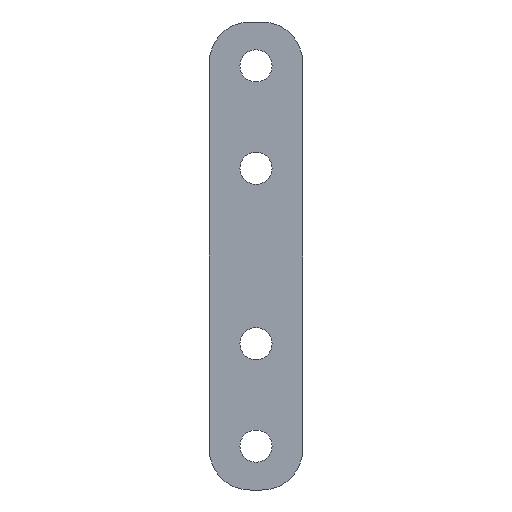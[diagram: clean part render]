
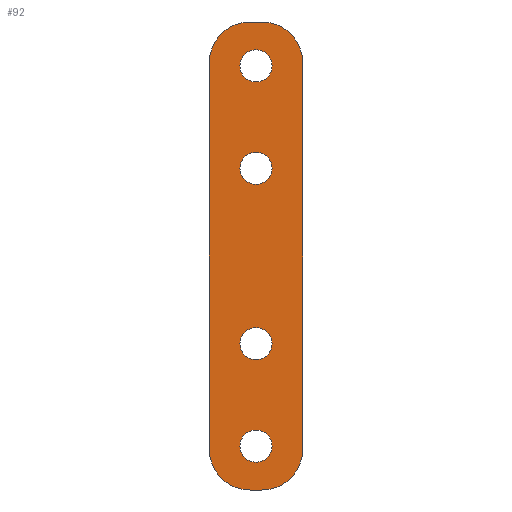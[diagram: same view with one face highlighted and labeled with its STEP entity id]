
A CAD part, front view. The second image highlights one B-rep face of the part: STEP entity #92.
In plain terms, the highlighted planar face has unit normal (0, -1, 0).
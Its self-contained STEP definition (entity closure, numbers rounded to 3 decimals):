
#92 = ADVANCED_FACE( '', ( #132, #133, #134, #135, #136 ), #137, .F. );
#132 = FACE_BOUND( '', #176, .T. );
#133 = FACE_BOUND( '', #177, .T. );
#134 = FACE_BOUND( '', #178, .T. );
#135 = FACE_BOUND( '', #179, .T. );
#136 = FACE_OUTER_BOUND( '', #180, .T. );
#137 = PLANE( '', #181 );
#176 = EDGE_LOOP( '', ( #313, #314 ) );
#177 = EDGE_LOOP( '', ( #315, #316 ) );
#178 = EDGE_LOOP( '', ( #317, #318 ) );
#179 = EDGE_LOOP( '', ( #319, #320 ) );
#180 = EDGE_LOOP( '', ( #321, #322, #323, #324, #325, #326, #327, #328 ) );
#181 = AXIS2_PLACEMENT_3D( '', #329, #330, #331 );
#313 = ORIENTED_EDGE( '', *, *, #347, .T. );
#314 = ORIENTED_EDGE( '', *, *, #348, .T. );
#315 = ORIENTED_EDGE( '', *, *, #343, .T. );
#316 = ORIENTED_EDGE( '', *, *, #350, .T. );
#317 = ORIENTED_EDGE( '', *, *, #339, .T. );
#318 = ORIENTED_EDGE( '', *, *, #352, .T. );
#319 = ORIENTED_EDGE( '', *, *, #335, .T. );
#320 = ORIENTED_EDGE( '', *, *, #354, .T. );
#321 = ORIENTED_EDGE( '', *, *, #379, .F. );
#322 = ORIENTED_EDGE( '', *, *, #358, .F. );
#323 = ORIENTED_EDGE( '', *, *, #362, .F. );
#324 = ORIENTED_EDGE( '', *, *, #365, .F. );
#325 = ORIENTED_EDGE( '', *, *, #368, .F. );
#326 = ORIENTED_EDGE( '', *, *, #371, .F. );
#327 = ORIENTED_EDGE( '', *, *, #374, .F. );
#328 = ORIENTED_EDGE( '', *, *, #377, .F. );
#329 = CARTESIAN_POINT( '', ( 0., 0., 0. ) );
#330 = DIRECTION( '', ( 0., 1., 0. ) );
#331 = DIRECTION( '', ( 0., 0., 1. ) );
#335 = EDGE_CURVE( '', #381, #385, #387, .T. );
#339 = EDGE_CURVE( '', #389, #393, #395, .T. );
#343 = EDGE_CURVE( '', #397, #401, #403, .T. );
#347 = EDGE_CURVE( '', #405, #409, #411, .T. );
#348 = EDGE_CURVE( '', #409, #405, #412, .T. );
#350 = EDGE_CURVE( '', #401, #397, #414, .T. );
#352 = EDGE_CURVE( '', #393, #389, #416, .T. );
#354 = EDGE_CURVE( '', #385, #381, #418, .T. );
#358 = EDGE_CURVE( '', #423, #425, #426, .T. );
#362 = EDGE_CURVE( '', #430, #423, #432, .T. );
#365 = EDGE_CURVE( '', #435, #430, #437, .T. );
#368 = EDGE_CURVE( '', #440, #435, #442, .T. );
#371 = EDGE_CURVE( '', #445, #440, #447, .T. );
#374 = EDGE_CURVE( '', #450, #445, #452, .T. );
#377 = EDGE_CURVE( '', #455, #450, #457, .T. );
#379 = EDGE_CURVE( '', #425, #455, #459, .T. );
#381 = VERTEX_POINT( '', #461 );
#385 = VERTEX_POINT( '', #466 );
#387 = CIRCLE( '', #469, 2.75 );
#389 = VERTEX_POINT( '', #471 );
#393 = VERTEX_POINT( '', #476 );
#395 = CIRCLE( '', #479, 2.75 );
#397 = VERTEX_POINT( '', #481 );
#401 = VERTEX_POINT( '', #486 );
#403 = CIRCLE( '', #489, 2.75 );
#405 = VERTEX_POINT( '', #491 );
#409 = VERTEX_POINT( '', #496 );
#411 = CIRCLE( '', #499, 2.75 );
#412 = CIRCLE( '', #500, 2.75 );
#414 = CIRCLE( '', #502, 2.75 );
#416 = CIRCLE( '', #504, 2.75 );
#418 = CIRCLE( '', #506, 2.75 );
#423 = VERTEX_POINT( '', #512 );
#425 = VERTEX_POINT( '', #515 );
#426 = LINE( '', #516, #517 );
#430 = VERTEX_POINT( '', #522 );
#432 = CIRCLE( '', #525, 7. );
#435 = VERTEX_POINT( '', #529 );
#437 = LINE( '', #532, #533 );
#440 = VERTEX_POINT( '', #536 );
#442 = CIRCLE( '', #539, 7. );
#445 = VERTEX_POINT( '', #543 );
#447 = LINE( '', #546, #547 );
#450 = VERTEX_POINT( '', #550 );
#452 = CIRCLE( '', #553, 7. );
#455 = VERTEX_POINT( '', #557 );
#457 = LINE( '', #560, #561 );
#459 = CIRCLE( '', #563, 7. );
#461 = CARTESIAN_POINT( '', ( 2.75, 0., 0. ) );
#466 = CARTESIAN_POINT( '', ( -2.75, 0., 0. ) );
#469 = AXIS2_PLACEMENT_3D( '', #569, #570, #571 );
#471 = CARTESIAN_POINT( '', ( 2.75, 0., 65. ) );
#476 = CARTESIAN_POINT( '', ( -2.75, 0., 65. ) );
#479 = AXIS2_PLACEMENT_3D( '', #577, #578, #579 );
#481 = CARTESIAN_POINT( '', ( 2.75, 0., 47.5 ) );
#486 = CARTESIAN_POINT( '', ( -2.75, 0., 47.5 ) );
#489 = AXIS2_PLACEMENT_3D( '', #585, #586, #587 );
#491 = CARTESIAN_POINT( '', ( 2.75, 0., 17.5 ) );
#496 = CARTESIAN_POINT( '', ( -2.75, 0., 17.5 ) );
#499 = AXIS2_PLACEMENT_3D( '', #593, #594, #595 );
#500 = AXIS2_PLACEMENT_3D( '', #596, #597, #598 );
#502 = AXIS2_PLACEMENT_3D( '', #602, #603, #604 );
#504 = AXIS2_PLACEMENT_3D( '', #608, #609, #610 );
#506 = AXIS2_PLACEMENT_3D( '', #614, #615, #616 );
#512 = CARTESIAN_POINT( '', ( -8., 0., -0.5 ) );
#515 = CARTESIAN_POINT( '', ( -8., 0., 65.5 ) );
#516 = CARTESIAN_POINT( '', ( -8., 0., -0.5 ) );
#517 = VECTOR( '', #622, 1. );
#522 = CARTESIAN_POINT( '', ( -1., 0., -7.5 ) );
#525 = AXIS2_PLACEMENT_3D( '', #628, #629, #630 );
#529 = CARTESIAN_POINT( '', ( 1., 0., -7.5 ) );
#532 = CARTESIAN_POINT( '', ( 1., 0., -7.5 ) );
#533 = VECTOR( '', #633, 1. );
#536 = CARTESIAN_POINT( '', ( 8., 0., -0.5 ) );
#539 = AXIS2_PLACEMENT_3D( '', #638, #639, #640 );
#543 = CARTESIAN_POINT( '', ( 8., 0., 65.5 ) );
#546 = CARTESIAN_POINT( '', ( 8., 0., 65.5 ) );
#547 = VECTOR( '', #643, 1. );
#550 = CARTESIAN_POINT( '', ( 1., 0., 72.5 ) );
#553 = AXIS2_PLACEMENT_3D( '', #648, #649, #650 );
#557 = CARTESIAN_POINT( '', ( -1., 0., 72.5 ) );
#560 = CARTESIAN_POINT( '', ( -1., 0., 72.5 ) );
#561 = VECTOR( '', #653, 1. );
#563 = AXIS2_PLACEMENT_3D( '', #657, #658, #659 );
#569 = CARTESIAN_POINT( '', ( 0., 0., 0. ) );
#570 = DIRECTION( '', ( 0., 1., 0. ) );
#571 = DIRECTION( '', ( 1., 0., 0. ) );
#577 = CARTESIAN_POINT( '', ( 0., 0., 65. ) );
#578 = DIRECTION( '', ( 0., 1., 0. ) );
#579 = DIRECTION( '', ( 1., 0., 0. ) );
#585 = CARTESIAN_POINT( '', ( 0., 0., 47.5 ) );
#586 = DIRECTION( '', ( 0., 1., 0. ) );
#587 = DIRECTION( '', ( 1., 0., 0. ) );
#593 = CARTESIAN_POINT( '', ( 0., 0., 17.5 ) );
#594 = DIRECTION( '', ( 0., 1., 0. ) );
#595 = DIRECTION( '', ( 1., 0., 0. ) );
#596 = CARTESIAN_POINT( '', ( 0., 0., 17.5 ) );
#597 = DIRECTION( '', ( 0., 1., 0. ) );
#598 = DIRECTION( '', ( 1., 0., 0. ) );
#602 = CARTESIAN_POINT( '', ( 0., 0., 47.5 ) );
#603 = DIRECTION( '', ( 0., 1., 0. ) );
#604 = DIRECTION( '', ( 1., 0., 0. ) );
#608 = CARTESIAN_POINT( '', ( 0., 0., 65. ) );
#609 = DIRECTION( '', ( 0., 1., 0. ) );
#610 = DIRECTION( '', ( 1., 0., 0. ) );
#614 = CARTESIAN_POINT( '', ( 0., 0., 0. ) );
#615 = DIRECTION( '', ( 0., 1., 0. ) );
#616 = DIRECTION( '', ( 1., 0., 0. ) );
#622 = DIRECTION( '', ( 0., 0., 1. ) );
#628 = CARTESIAN_POINT( '', ( -1., 0., -0.5 ) );
#629 = DIRECTION( '', ( 0., 1., 0. ) );
#630 = DIRECTION( '', ( 0., 0., -1. ) );
#633 = DIRECTION( '', ( -1., 0., 0. ) );
#638 = CARTESIAN_POINT( '', ( 1., 0., -0.5 ) );
#639 = DIRECTION( '', ( 0., 1., 0. ) );
#640 = DIRECTION( '', ( 1., 0., 0. ) );
#643 = DIRECTION( '', ( 0., 0., -1. ) );
#648 = CARTESIAN_POINT( '', ( 1., 0., 65.5 ) );
#649 = DIRECTION( '', ( 0., 1., 0. ) );
#650 = DIRECTION( '', ( 0., 0., 1. ) );
#653 = DIRECTION( '', ( 1., 0., 0. ) );
#657 = CARTESIAN_POINT( '', ( -1., 0., 65.5 ) );
#658 = DIRECTION( '', ( 0., 1., 0. ) );
#659 = DIRECTION( '', ( -1., 0., 0. ) );
